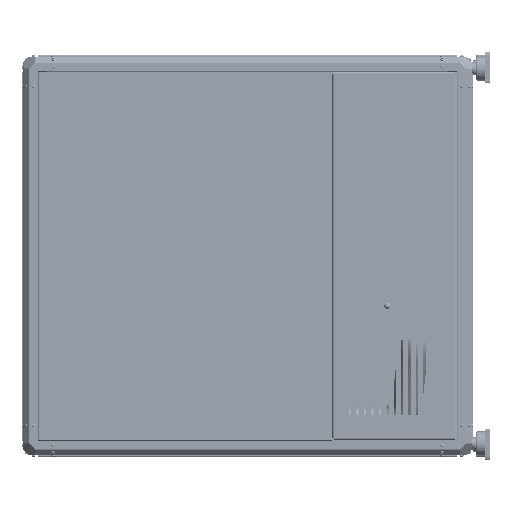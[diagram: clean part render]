
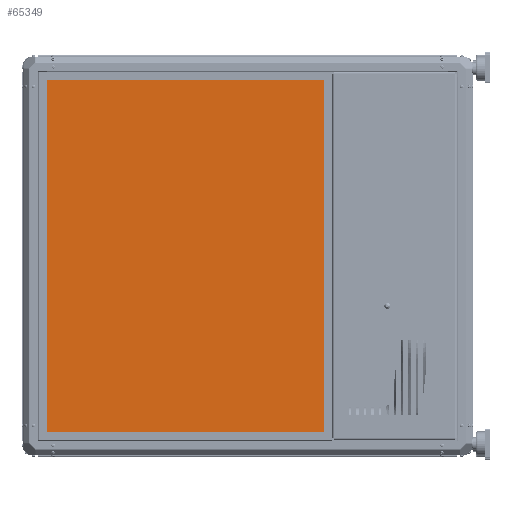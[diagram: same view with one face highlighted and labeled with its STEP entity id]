
A CAD part, left-side view. The second image highlights one B-rep face of the part: STEP entity #65349.
In plain terms, the highlighted planar face has unit normal (-1, 0, 0) as drawn and (0, 0, -1) by its records, which use the part's own axes.
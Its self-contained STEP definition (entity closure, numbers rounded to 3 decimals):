
#4902=PLANE('',#71485);
#7736=FACE_OUTER_BOUND('',#11733,.T.);
#11733=EDGE_LOOP('',(#53806,#53807,#53808,#53809));
#19302=LINE('',#110359,#25646);
#19303=LINE('',#110361,#25647);
#19304=LINE('',#110363,#25648);
#19305=LINE('',#110364,#25649);
#25646=VECTOR('',#83652,10.);
#25647=VECTOR('',#83653,10.);
#25648=VECTOR('',#83654,10.);
#25649=VECTOR('',#83655,10.);
#31729=VERTEX_POINT('',#110357);
#31730=VERTEX_POINT('',#110358);
#31731=VERTEX_POINT('',#110360);
#31732=VERTEX_POINT('',#110362);
#39510=EDGE_CURVE('',#31729,#31730,#19302,.T.);
#39511=EDGE_CURVE('',#31730,#31731,#19303,.T.);
#39512=EDGE_CURVE('',#31731,#31732,#19304,.T.);
#39513=EDGE_CURVE('',#31732,#31729,#19305,.T.);
#53806=ORIENTED_EDGE('',*,*,#39510,.T.);
#53807=ORIENTED_EDGE('',*,*,#39511,.T.);
#53808=ORIENTED_EDGE('',*,*,#39512,.T.);
#53809=ORIENTED_EDGE('',*,*,#39513,.T.);
#65349=ADVANCED_FACE('',(#7736),#4902,.T.);
#71485=AXIS2_PLACEMENT_3D('',#110356,#83650,#83651);
#83650=DIRECTION('center_axis',(0.,0.,-1.));
#83651=DIRECTION('ref_axis',(-1.,0.,0.));
#83652=DIRECTION('',(0.,-1.,0.));
#83653=DIRECTION('',(-1.,0.,0.));
#83654=DIRECTION('',(0.,1.,0.));
#83655=DIRECTION('',(1.,0.,0.));
#110356=CARTESIAN_POINT('Origin',(0.,0.,-12.5));
#110357=CARTESIAN_POINT('',(368.,293.,-12.5));
#110358=CARTESIAN_POINT('',(368.,-293.,-12.5));
#110359=CARTESIAN_POINT('',(368.,-293.,-12.5));
#110360=CARTESIAN_POINT('',(-368.,-293.,-12.5));
#110361=CARTESIAN_POINT('',(-368.,-293.,-12.5));
#110362=CARTESIAN_POINT('',(-368.,293.,-12.5));
#110363=CARTESIAN_POINT('',(-368.,293.,-12.5));
#110364=CARTESIAN_POINT('',(368.,293.,-12.5));
